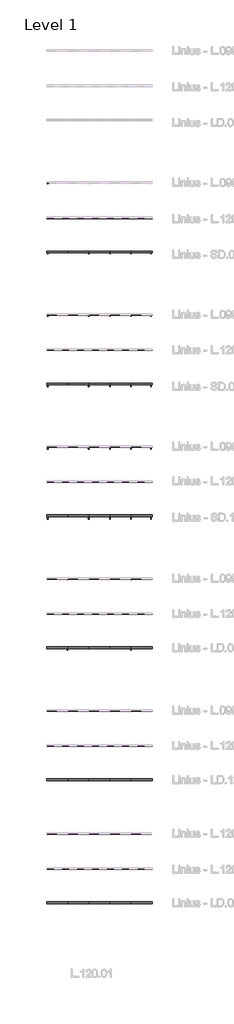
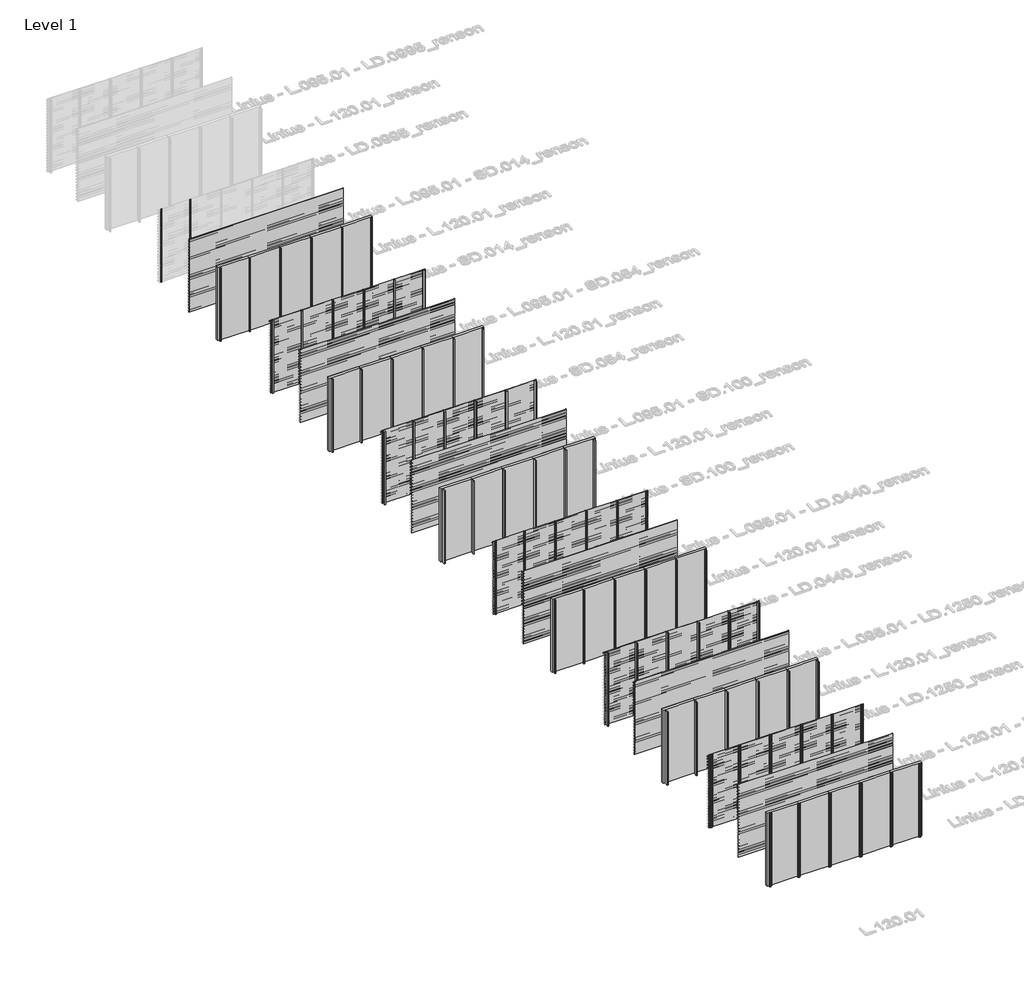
# One storey, part 1 of 46: 68 members, 61 plates.
"""IFC4 building model written with IfcOpenShell, lengths in millimetres."""

from ifc_helpers import new_model, si_unit, origin, origin_with_axes, place, context, project, spatial, polyline, outline, extrude, transform, mapped, element, save
from components import rectangular_mullion_3facce28, rectangular_mullion_6cf2c509, rectangular_mullion_8b77bd57, rectangular_mullion_2c867e25, rectangular_mullion_7803f5c4, rectangular_mullion_82152e2f, rectangular_mullion_2b84ad7e, rectangular_mullion_0fd695e7, rectangular_mullion_9b796d85, rectangular_mullion_dfb17e98, rectangular_mullion_6132f1f1, rectangular_mullion_8f153c19, rectangular_mullion_5b30f3fd, rectangular_mullion_5e0e8e0a, rectangular_mullion_d2d38772, rectangular_mullion_efb80f74, rectangular_mullion_aaa1fb1b, rectangular_mullion_ea9d012c, rectangular_mullion_af4e7430, empty_system_panel_empty_aabbdda4

model = new_model("IFC4")

# Units and contexts
model_context = context("Model", 3, world=origin())
ifc_project = project(units=[si_unit("LENGTHUNIT", "METRE", prefix="MILLI")], contexts=[model_context])

# Site, building, storey
site = spatial("IfcSite", under=ifc_project)
building = spatial("IfcBuilding", under=site)
storey = spatial("IfcBuildingStorey", under=building, Name="Level 1", Elevation=0.0)

# Members
placement = place(None, origin())
rectangular_mullion_shape = rectangular_mullion_3facce28(model_context)
element("IfcMember", 1, ObjectType="Rectangular Mullion : SD.014_renson", at=placement, inside=storey, context=model_context, shape_type="MappedRepresentation", body=[
    mapped(rectangular_mullion_shape, transform((1666.6208099, 43981.0540136, 0.0), x_axis=(-1.0, 0.0, 0.0), y_axis=(0.0, 1.0, 0.0), z_axis=(0.0, 0.0, -1.0))),
])
element("IfcMember", 2, ObjectType="Rectangular Mullion : SD.014_renson", at=placement, inside=storey, context=model_context, shape_type="MappedRepresentation", body=[
    mapped(rectangular_mullion_shape, transform((2866.6208097, 39981.0540136, 0.0), x_axis=(-1.0, 0.0, 0.0), y_axis=(0.0, 1.0, 0.0), z_axis=(0.0, 0.0, -1.0))),
])
element("IfcMember", 3, ObjectType="Rectangular Mullion : SD.014_renson", at=placement, inside=storey, context=model_context, shape_type="MappedRepresentation", body=[
    mapped(rectangular_mullion_shape, transform((1666.6208099, 39981.0540136, 0.0), x_axis=(-1.0, 0.0, 0.0), y_axis=(0.0, 1.0, 0.0), z_axis=(0.0, 0.0, -1.0))),
])
element("IfcMember", 4, ObjectType="Rectangular Mullion : SD.014_renson", at=placement, inside=storey, context=model_context, shape_type="MappedRepresentation", body=[
    mapped(rectangular_mullion_shape, transform((4066.6208096, 39981.0540136, 0.0), x_axis=(-1.0, 0.0, 0.0), y_axis=(0.0, 1.0, 0.0), z_axis=(0.0, 0.0, -1.0))),
])
element("IfcMember", 5, ObjectType="Rectangular Mullion : SD.014_renson", at=placement, inside=storey, context=model_context, shape_type="MappedRepresentation", body=[
    mapped(rectangular_mullion_shape, transform((5266.6208095, 39981.0540136, 0.0), x_axis=(-1.0, 0.0, 0.0), y_axis=(0.0, 1.0, 0.0), z_axis=(0.0, 0.0, -1.0))),
])
rectangular_mullion_2_shape = rectangular_mullion_6cf2c509(model_context)
element("IfcMember", 6, ObjectType="Rectangular Mullion : SD.054_renson", at=placement, inside=storey, context=model_context, shape_type="MappedRepresentation", body=[
    mapped(rectangular_mullion_2_shape, transform((2866.6208097, 36481.0540136, 0.0), x_axis=(-1.0, 0.0, 0.0), y_axis=(0.0, 1.0, 0.0), z_axis=(0.0, 0.0, -1.0))),
])
element("IfcMember", 7, ObjectType="Rectangular Mullion : SD.054_renson", at=placement, inside=storey, context=model_context, shape_type="MappedRepresentation", body=[
    mapped(rectangular_mullion_2_shape, transform((1666.6208099, 36481.0540136, 0.0), x_axis=(-1.0, 0.0, 0.0), y_axis=(0.0, 1.0, 0.0), z_axis=(0.0, 0.0, -1.0))),
])
element("IfcMember", 8, ObjectType="Rectangular Mullion : SD.054_renson", at=placement, inside=storey, context=model_context, shape_type="MappedRepresentation", body=[
    mapped(rectangular_mullion_2_shape, transform((2866.6208097, 32481.0540136, 0.0), x_axis=(-1.0, 0.0, 0.0), y_axis=(0.0, 1.0, 0.0), z_axis=(0.0, 0.0, -1.0))),
])
element("IfcMember", 9, ObjectType="Rectangular Mullion : SD.054_renson", at=placement, inside=storey, context=model_context, shape_type="MappedRepresentation", body=[
    mapped(rectangular_mullion_2_shape, transform((1666.6208099, 32481.0540136, 0.0), x_axis=(-1.0, 0.0, 0.0), y_axis=(0.0, 1.0, 0.0), z_axis=(0.0, 0.0, -1.0))),
])
element("IfcMember", 10, ObjectType="Rectangular Mullion : SD.054_renson", at=placement, inside=storey, context=model_context, shape_type="MappedRepresentation", body=[
    mapped(rectangular_mullion_2_shape, transform((4066.6208096, 32481.0540136, 0.0), x_axis=(-1.0, 0.0, 0.0), y_axis=(0.0, 1.0, 0.0), z_axis=(0.0, 0.0, -1.0))),
])
element("IfcMember", 11, ObjectType="Rectangular Mullion : SD.054_renson", at=placement, inside=storey, context=model_context, shape_type="MappedRepresentation", body=[
    mapped(rectangular_mullion_2_shape, transform((5266.6208095, 32481.0540136, 0.0), x_axis=(-1.0, 0.0, 0.0), y_axis=(0.0, 1.0, 0.0), z_axis=(0.0, 0.0, -1.0))),
])
element("IfcMember", 12, ObjectType="Rectangular Mullion : SD.054_renson", at=placement, inside=storey, context=model_context, shape_type="MappedRepresentation", body=[
    mapped(rectangular_mullion_2_shape, transform((4066.6208096, 36481.0540136, 0.0), x_axis=(-1.0, 0.0, 0.0), y_axis=(0.0, 1.0, 0.0), z_axis=(0.0, 0.0, -1.0))),
])
element("IfcMember", 13, ObjectType="Rectangular Mullion : SD.054_renson", at=placement, inside=storey, context=model_context, shape_type="MappedRepresentation", body=[
    mapped(rectangular_mullion_2_shape, transform((5266.6208095, 36481.0540136, 0.0), x_axis=(-1.0, 0.0, 0.0), y_axis=(0.0, 1.0, 0.0), z_axis=(0.0, 0.0, -1.0))),
])
rectangular_mullion_3_shape = rectangular_mullion_8b77bd57(model_context)
element("IfcMember", 14, ObjectType="Rectangular Mullion : SD.100_renson", at=placement, inside=storey, context=model_context, shape_type="MappedRepresentation", body=[
    mapped(rectangular_mullion_3_shape, transform((2866.6208097, 28981.0540136, 0.0), x_axis=(-1.0, 0.0, 0.0), y_axis=(0.0, 1.0, 0.0), z_axis=(0.0, 0.0, -1.0))),
])
element("IfcMember", 15, ObjectType="Rectangular Mullion : SD.100_renson", at=placement, inside=storey, context=model_context, shape_type="MappedRepresentation", body=[
    mapped(rectangular_mullion_3_shape, transform((1666.6208099, 28981.0540136, 0.0), x_axis=(-1.0, 0.0, 0.0), y_axis=(0.0, 1.0, 0.0), z_axis=(0.0, 0.0, -1.0))),
])
element("IfcMember", 16, ObjectType="Rectangular Mullion : SD.100_renson", at=placement, inside=storey, context=model_context, shape_type="MappedRepresentation", body=[
    mapped(rectangular_mullion_3_shape, transform((2866.6208097, 24981.0540136, 0.0), x_axis=(-1.0, 0.0, 0.0), y_axis=(0.0, 1.0, 0.0), z_axis=(0.0, 0.0, -1.0))),
])
element("IfcMember", 17, ObjectType="Rectangular Mullion : SD.100_renson", at=placement, inside=storey, context=model_context, shape_type="MappedRepresentation", body=[
    mapped(rectangular_mullion_3_shape, transform((1666.6208099, 24981.0540136, 0.0), x_axis=(-1.0, 0.0, 0.0), y_axis=(0.0, 1.0, 0.0), z_axis=(0.0, 0.0, -1.0))),
])
element("IfcMember", 18, ObjectType="Rectangular Mullion : SD.100_renson", at=placement, inside=storey, context=model_context, shape_type="MappedRepresentation", body=[
    mapped(rectangular_mullion_3_shape, transform((4066.6208096, 24981.0540136, 0.0), x_axis=(-1.0, 0.0, 0.0), y_axis=(0.0, 1.0, 0.0), z_axis=(0.0, 0.0, -1.0))),
])
element("IfcMember", 19, ObjectType="Rectangular Mullion : SD.100_renson", at=placement, inside=storey, context=model_context, shape_type="MappedRepresentation", body=[
    mapped(rectangular_mullion_3_shape, transform((5266.6208095, 24981.0540136, 0.0), x_axis=(-1.0, 0.0, 0.0), y_axis=(0.0, 1.0, 0.0), z_axis=(0.0, 0.0, -1.0))),
])
element("IfcMember", 20, ObjectType="Rectangular Mullion : SD.100_renson", at=placement, inside=storey, context=model_context, shape_type="MappedRepresentation", body=[
    mapped(rectangular_mullion_3_shape, transform((4066.6208096, 28981.0540136, 0.0), x_axis=(-1.0, 0.0, 0.0), y_axis=(0.0, 1.0, 0.0), z_axis=(0.0, 0.0, -1.0))),
])
element("IfcMember", 21, ObjectType="Rectangular Mullion : SD.100_renson", at=placement, inside=storey, context=model_context, shape_type="MappedRepresentation", body=[
    mapped(rectangular_mullion_3_shape, transform((5266.6208095, 28981.0540136, 0.0), x_axis=(-1.0, 0.0, 0.0), y_axis=(0.0, 1.0, 0.0), z_axis=(0.0, 0.0, -1.0))),
])
rectangular_mullion_4_shape = rectangular_mullion_2c867e25(model_context)
element("IfcMember", 22, ObjectType="Rectangular Mullion : LD.0440_renson", at=placement, inside=storey, context=model_context, shape_type="MappedRepresentation", body=[
    mapped(rectangular_mullion_4_shape, transform((2866.6208097, 21481.0540136, 0.0), x_axis=(-1.0, 0.0, 0.0), y_axis=(0.0, 1.0, 0.0), z_axis=(0.0, 0.0, -1.0))),
])
element("IfcMember", 23, ObjectType="Rectangular Mullion : LD.0440_renson", at=placement, inside=storey, context=model_context, shape_type="MappedRepresentation", body=[
    mapped(rectangular_mullion_4_shape, transform((1666.6208099, 21481.0540136, 0.0), x_axis=(-1.0, 0.0, 0.0), y_axis=(0.0, 1.0, 0.0), z_axis=(0.0, 0.0, -1.0))),
])
element("IfcMember", 24, ObjectType="Rectangular Mullion : LD.0440_renson", at=placement, inside=storey, context=model_context, shape_type="MappedRepresentation", body=[
    mapped(rectangular_mullion_4_shape, transform((2866.6208097, 17481.0540136, 0.0), x_axis=(-1.0, 0.0, 0.0), y_axis=(0.0, 1.0, 0.0), z_axis=(0.0, 0.0, -1.0))),
])
element("IfcMember", 25, ObjectType="Rectangular Mullion : LD.0440_renson", at=placement, inside=storey, context=model_context, shape_type="MappedRepresentation", body=[
    mapped(rectangular_mullion_4_shape, transform((1666.6208099, 17481.0540136, 0.0), x_axis=(-1.0, 0.0, 0.0), y_axis=(0.0, 1.0, 0.0), z_axis=(0.0, 0.0, -1.0))),
])
element("IfcMember", 26, ObjectType="Rectangular Mullion : LD.0440_renson", at=placement, inside=storey, context=model_context, shape_type="MappedRepresentation", body=[
    mapped(rectangular_mullion_4_shape, transform((4066.6208096, 17481.0540136, 0.0), x_axis=(-1.0, 0.0, 0.0), y_axis=(0.0, 1.0, 0.0), z_axis=(0.0, 0.0, -1.0))),
])
element("IfcMember", 27, ObjectType="Rectangular Mullion : LD.0440_renson", at=placement, inside=storey, context=model_context, shape_type="MappedRepresentation", body=[
    mapped(rectangular_mullion_4_shape, transform((5266.6208095, 17481.0540136, 0.0), x_axis=(-1.0, 0.0, 0.0), y_axis=(0.0, 1.0, 0.0), z_axis=(0.0, 0.0, -1.0))),
])
element("IfcMember", 28, ObjectType="Rectangular Mullion : LD.0440_renson", at=placement, inside=storey, context=model_context, shape_type="MappedRepresentation", body=[
    mapped(rectangular_mullion_4_shape, transform((4066.6208096, 21481.0540136, 0.0), x_axis=(-1.0, 0.0, 0.0), y_axis=(0.0, 1.0, 0.0), z_axis=(0.0, 0.0, -1.0))),
])
element("IfcMember", 29, ObjectType="Rectangular Mullion : LD.0440_renson", at=placement, inside=storey, context=model_context, shape_type="MappedRepresentation", body=[
    mapped(rectangular_mullion_4_shape, transform((5266.6208095, 21481.0540136, 0.0), x_axis=(-1.0, 0.0, 0.0), y_axis=(0.0, 1.0, 0.0), z_axis=(0.0, 0.0, -1.0))),
])
rectangular_mullion_5_shape = rectangular_mullion_7803f5c4(model_context)
element("IfcMember", 30, ObjectType="Rectangular Mullion : LD.1250_renson", at=placement, inside=storey, context=model_context, shape_type="MappedRepresentation", body=[
    mapped(rectangular_mullion_5_shape, transform((2866.6208097, 13981.0540136, 0.0), x_axis=(-1.0, 0.0, 0.0), y_axis=(0.0, 1.0, 0.0), z_axis=(0.0, 0.0, -1.0))),
])
element("IfcMember", 31, ObjectType="Rectangular Mullion : LD.1250_renson", at=placement, inside=storey, context=model_context, shape_type="MappedRepresentation", body=[
    mapped(rectangular_mullion_5_shape, transform((1666.6208099, 13981.0540136, 0.0), x_axis=(-1.0, 0.0, 0.0), y_axis=(0.0, 1.0, 0.0), z_axis=(0.0, 0.0, -1.0))),
])
element("IfcMember", 32, ObjectType="Rectangular Mullion : LD.1250_renson", at=placement, inside=storey, context=model_context, shape_type="MappedRepresentation", body=[
    mapped(rectangular_mullion_5_shape, transform((2866.6208097, 9981.0540136, 0.0), x_axis=(-1.0, 0.0, 0.0), y_axis=(0.0, 1.0, 0.0), z_axis=(0.0, 0.0, -1.0))),
])
element("IfcMember", 33, ObjectType="Rectangular Mullion : LD.1250_renson", at=placement, inside=storey, context=model_context, shape_type="MappedRepresentation", body=[
    mapped(rectangular_mullion_5_shape, transform((1666.6208099, 9981.0540136, 0.0), x_axis=(-1.0, 0.0, 0.0), y_axis=(0.0, 1.0, 0.0), z_axis=(0.0, 0.0, -1.0))),
])
element("IfcMember", 34, ObjectType="Rectangular Mullion : LD.1250_renson", at=placement, inside=storey, context=model_context, shape_type="MappedRepresentation", body=[
    mapped(rectangular_mullion_5_shape, transform((4066.6208096, 9981.0540136, 0.0), x_axis=(-1.0, 0.0, 0.0), y_axis=(0.0, 1.0, 0.0), z_axis=(0.0, 0.0, -1.0))),
])
element("IfcMember", 35, ObjectType="Rectangular Mullion : LD.1250_renson", at=placement, inside=storey, context=model_context, shape_type="MappedRepresentation", body=[
    mapped(rectangular_mullion_5_shape, transform((5266.6208095, 9981.0540136, 0.0), x_axis=(-1.0, 0.0, 0.0), y_axis=(0.0, 1.0, 0.0), z_axis=(0.0, 0.0, -1.0))),
])
element("IfcMember", 36, ObjectType="Rectangular Mullion : LD.1250_renson", at=placement, inside=storey, context=model_context, shape_type="MappedRepresentation", body=[
    mapped(rectangular_mullion_5_shape, transform((4066.6208096, 13981.0540136, 0.0), x_axis=(-1.0, 0.0, 0.0), y_axis=(0.0, 1.0, 0.0), z_axis=(0.0, 0.0, -1.0))),
])
element("IfcMember", 37, ObjectType="Rectangular Mullion : LD.1250_renson", at=placement, inside=storey, context=model_context, shape_type="MappedRepresentation", body=[
    mapped(rectangular_mullion_5_shape, transform((5266.6208095, 13981.0540136, 0.0), x_axis=(-1.0, 0.0, 0.0), y_axis=(0.0, 1.0, 0.0), z_axis=(0.0, 0.0, -1.0))),
])
rectangular_mullion_6_shape = rectangular_mullion_82152e2f(model_context)
element("IfcMember", 38, ObjectType="Rectangular Mullion : LD.0240_renson", at=placement, inside=storey, context=model_context, shape_type="MappedRepresentation", body=[
    mapped(rectangular_mullion_6_shape, transform((2866.6208097, 6985.0270068, 0.0), x_axis=(-1.0, 0.0, 0.0), y_axis=(0.0, 1.0, 0.0), z_axis=(0.0, 0.0, -1.0))),
])
element("IfcMember", 39, ObjectType="Rectangular Mullion : LD.0240_renson", at=placement, inside=storey, context=model_context, shape_type="MappedRepresentation", body=[
    mapped(rectangular_mullion_6_shape, transform((1666.6208099, 6985.0270068, 0.0), x_axis=(-1.0, 0.0, 0.0), y_axis=(0.0, 1.0, 0.0), z_axis=(0.0, 0.0, -1.0))),
])
element("IfcMember", 40, ObjectType="Rectangular Mullion : LD.0240_renson", at=placement, inside=storey, context=model_context, shape_type="MappedRepresentation", body=[
    mapped(rectangular_mullion_6_shape, transform((2866.6208097, 2985.0270068, 0.0), x_axis=(-1.0, 0.0, 0.0), y_axis=(0.0, 1.0, 0.0), z_axis=(0.0, 0.0, -1.0))),
])
element("IfcMember", 41, ObjectType="Rectangular Mullion : LD.0240_renson", at=placement, inside=storey, context=model_context, shape_type="MappedRepresentation", body=[
    mapped(rectangular_mullion_6_shape, transform((1666.6208099, 2985.0270068, 0.0), x_axis=(-1.0, 0.0, 0.0), y_axis=(0.0, 1.0, 0.0), z_axis=(0.0, 0.0, -1.0))),
])
element("IfcMember", 42, ObjectType="Rectangular Mullion : LD.0240_renson", at=placement, inside=storey, context=model_context, shape_type="MappedRepresentation", body=[
    mapped(rectangular_mullion_6_shape, transform((4066.6208096, 2985.0270068, 0.0), x_axis=(-1.0, 0.0, 0.0), y_axis=(0.0, 1.0, 0.0), z_axis=(0.0, 0.0, -1.0))),
])
element("IfcMember", 43, ObjectType="Rectangular Mullion : LD.0240_renson", at=placement, inside=storey, context=model_context, shape_type="MappedRepresentation", body=[
    mapped(rectangular_mullion_6_shape, transform((5266.6208095, 2985.0270068, 0.0), x_axis=(-1.0, 0.0, 0.0), y_axis=(0.0, 1.0, 0.0), z_axis=(0.0, 0.0, -1.0))),
])
element("IfcMember", 44, ObjectType="Rectangular Mullion : LD.0240_renson", at=placement, inside=storey, context=model_context, shape_type="MappedRepresentation", body=[
    mapped(rectangular_mullion_6_shape, transform((4066.6208096, 6985.0270068, 0.0), x_axis=(-1.0, 0.0, 0.0), y_axis=(0.0, 1.0, 0.0), z_axis=(0.0, 0.0, -1.0))),
])
element("IfcMember", 45, ObjectType="Rectangular Mullion : LD.0240_renson", at=placement, inside=storey, context=model_context, shape_type="MappedRepresentation", body=[
    mapped(rectangular_mullion_6_shape, transform((5266.6208095, 6985.0270068, 0.0), x_axis=(-1.0, 0.0, 0.0), y_axis=(0.0, 1.0, 0.0), z_axis=(0.0, 0.0, -1.0))),
])
rectangular_mullion_7_shape = rectangular_mullion_2b84ad7e(model_context)
element("IfcMember", 46, ObjectType="Rectangular Mullion : SD.014 - left_renson", at=placement, inside=storey, context=model_context, shape_type="MappedRepresentation", body=[
    mapped(rectangular_mullion_7_shape, transform((466.6208097, 43981.0540136, 0.0), x_axis=(-1.0, 0.0, 0.0), y_axis=(0.0, 1.0, 0.0), z_axis=(0.0, 0.0, -1.0))),
])
element("IfcMember", 47, ObjectType="Rectangular Mullion : SD.014 - left_renson", at=placement, inside=storey, context=model_context, shape_type="MappedRepresentation", body=[
    mapped(rectangular_mullion_7_shape, transform((466.6208097, 39981.0540136, 0.0), x_axis=(-1.0, 0.0, 0.0), y_axis=(0.0, 1.0, 0.0), z_axis=(0.0, 0.0, -1.0))),
])
rectangular_mullion_8_shape = rectangular_mullion_0fd695e7(model_context)
element("IfcMember", 48, ObjectType="Rectangular Mullion : SD.014 - right_renson", at=placement, inside=storey, context=model_context, shape_type="MappedRepresentation", body=[
    mapped(rectangular_mullion_8_shape, transform((6466.6208097, 39981.0540136, 3000.0), x_axis=(1.0, 0.0, 0.0), y_axis=(0.0, 1.0, 0.0), z_axis=(0.0, 0.0, 1.0))),
])
rectangular_mullion_9_shape = rectangular_mullion_9b796d85(model_context)
element("IfcMember", 49, ObjectType="Rectangular Mullion : SD.054 - left_renson", at=placement, inside=storey, context=model_context, shape_type="MappedRepresentation", body=[
    mapped(rectangular_mullion_9_shape, transform((466.6208097, 36481.0540136, 0.0), x_axis=(-1.0, 0.0, 0.0), y_axis=(0.0, 1.0, 0.0), z_axis=(0.0, 0.0, -1.0))),
])
element("IfcMember", 50, ObjectType="Rectangular Mullion : SD.054 - left_renson", at=placement, inside=storey, context=model_context, shape_type="MappedRepresentation", body=[
    mapped(rectangular_mullion_9_shape, transform((466.6208097, 32481.0540136, 0.0), x_axis=(-1.0, 0.0, 0.0), y_axis=(0.0, 1.0, 0.0), z_axis=(0.0, 0.0, -1.0))),
])
rectangular_mullion_10_shape = rectangular_mullion_dfb17e98(model_context)
element("IfcMember", 51, ObjectType="Rectangular Mullion : SD.054 - right_renson", at=placement, inside=storey, context=model_context, shape_type="MappedRepresentation", body=[
    mapped(rectangular_mullion_10_shape, transform((6466.6208097, 36481.0540136, 3000.0), x_axis=(1.0, 0.0, 0.0), y_axis=(0.0, 1.0, 0.0), z_axis=(0.0, 0.0, 1.0))),
])
element("IfcMember", 52, ObjectType="Rectangular Mullion : SD.054 - right_renson", at=placement, inside=storey, context=model_context, shape_type="MappedRepresentation", body=[
    mapped(rectangular_mullion_10_shape, transform((6466.6208097, 32481.0540136, 3000.0), x_axis=(1.0, 0.0, 0.0), y_axis=(0.0, 1.0, 0.0), z_axis=(0.0, 0.0, 1.0))),
])
rectangular_mullion_11_shape = rectangular_mullion_6132f1f1(model_context)
element("IfcMember", 53, ObjectType="Rectangular Mullion : SD.100 - left_renson", at=placement, inside=storey, context=model_context, shape_type="MappedRepresentation", body=[
    mapped(rectangular_mullion_11_shape, transform((466.6208097, 28981.0540136, 0.0), x_axis=(-1.0, 0.0, 0.0), y_axis=(0.0, 1.0, 0.0), z_axis=(0.0, 0.0, -1.0))),
])
element("IfcMember", 54, ObjectType="Rectangular Mullion : SD.100 - left_renson", at=placement, inside=storey, context=model_context, shape_type="MappedRepresentation", body=[
    mapped(rectangular_mullion_11_shape, transform((466.6208097, 24981.0540136, 0.0), x_axis=(-1.0, 0.0, 0.0), y_axis=(0.0, 1.0, 0.0), z_axis=(0.0, 0.0, -1.0))),
])
rectangular_mullion_12_shape = rectangular_mullion_8f153c19(model_context)
element("IfcMember", 55, ObjectType="Rectangular Mullion : SD.100 - right_renson", at=placement, inside=storey, context=model_context, shape_type="MappedRepresentation", body=[
    mapped(rectangular_mullion_12_shape, transform((6466.6208097, 28981.0540136, 3000.0), x_axis=(1.0, 0.0, 0.0), y_axis=(0.0, 1.0, 0.0), z_axis=(0.0, 0.0, 1.0))),
])
element("IfcMember", 56, ObjectType="Rectangular Mullion : SD.100 - right_renson", at=placement, inside=storey, context=model_context, shape_type="MappedRepresentation", body=[
    mapped(rectangular_mullion_12_shape, transform((6466.6208097, 24981.0540136, 3000.0), x_axis=(1.0, 0.0, 0.0), y_axis=(0.0, 1.0, 0.0), z_axis=(0.0, 0.0, 1.0))),
])
rectangular_mullion_13_shape = rectangular_mullion_5b30f3fd(model_context)
element("IfcMember", 57, ObjectType="Rectangular Mullion : LD.0440 - left_renson", at=placement, inside=storey, context=model_context, shape_type="MappedRepresentation", body=[
    mapped(rectangular_mullion_13_shape, transform((466.6208097, 21481.0540136, 0.0), x_axis=(-1.0, 0.0, 0.0), y_axis=(0.0, 1.0, 0.0), z_axis=(0.0, 0.0, -1.0))),
])
element("IfcMember", 58, ObjectType="Rectangular Mullion : LD.0440 - left_renson", at=placement, inside=storey, context=model_context, shape_type="MappedRepresentation", body=[
    mapped(rectangular_mullion_13_shape, transform((466.6208097, 17481.0540136, 0.0), x_axis=(-1.0, 0.0, 0.0), y_axis=(0.0, 1.0, 0.0), z_axis=(0.0, 0.0, -1.0))),
])
rectangular_mullion_14_shape = rectangular_mullion_5e0e8e0a(model_context)
element("IfcMember", 59, ObjectType="Rectangular Mullion : LD.0440 - right_renson", at=placement, inside=storey, context=model_context, shape_type="MappedRepresentation", body=[
    mapped(rectangular_mullion_14_shape, transform((6466.6208097, 21481.0540136, 3000.0), x_axis=(1.0, 0.0, 0.0), y_axis=(0.0, 1.0, 0.0), z_axis=(0.0, 0.0, 1.0))),
])
element("IfcMember", 60, ObjectType="Rectangular Mullion : LD.0440 - right_renson", at=placement, inside=storey, context=model_context, shape_type="MappedRepresentation", body=[
    mapped(rectangular_mullion_14_shape, transform((6466.6208097, 17481.0540136, 3000.0), x_axis=(1.0, 0.0, 0.0), y_axis=(0.0, 1.0, 0.0), z_axis=(0.0, 0.0, 1.0))),
])
rectangular_mullion_15_shape = rectangular_mullion_d2d38772(model_context)
element("IfcMember", 61, ObjectType="Rectangular Mullion : LD.1250 - left_renson", at=placement, inside=storey, context=model_context, shape_type="MappedRepresentation", body=[
    mapped(rectangular_mullion_15_shape, transform((466.6208097, 13981.0540136, 0.0), x_axis=(-1.0, 0.0, 0.0), y_axis=(0.0, 1.0, 0.0), z_axis=(0.0, 0.0, -1.0))),
])
element("IfcMember", 62, ObjectType="Rectangular Mullion : LD.1250 - left_renson", at=placement, inside=storey, context=model_context, shape_type="MappedRepresentation", body=[
    mapped(rectangular_mullion_15_shape, transform((466.6208097, 9981.0540136, 0.0), x_axis=(-1.0, 0.0, 0.0), y_axis=(0.0, 1.0, 0.0), z_axis=(0.0, 0.0, -1.0))),
])
rectangular_mullion_16_shape = rectangular_mullion_efb80f74(model_context)
element("IfcMember", 63, ObjectType="Rectangular Mullion : LD.1250 - right_renson", at=placement, inside=storey, context=model_context, shape_type="MappedRepresentation", body=[
    mapped(rectangular_mullion_16_shape, transform((6466.6208097, 13981.0540136, 3000.0), x_axis=(1.0, 0.0, 0.0), y_axis=(0.0, 1.0, 0.0), z_axis=(0.0, 0.0, 1.0))),
])
element("IfcMember", 64, ObjectType="Rectangular Mullion : LD.1250 - right_renson", at=placement, inside=storey, context=model_context, shape_type="MappedRepresentation", body=[
    mapped(rectangular_mullion_16_shape, transform((6466.6208097, 9981.0540136, 3000.0), x_axis=(1.0, 0.0, 0.0), y_axis=(0.0, 1.0, 0.0), z_axis=(0.0, 0.0, 1.0))),
])
rectangular_mullion_17_shape = rectangular_mullion_aaa1fb1b(model_context)
element("IfcMember", 65, ObjectType="Rectangular Mullion : LD.0240 - left_renson", at=placement, inside=storey, context=model_context, shape_type="MappedRepresentation", body=[
    mapped(rectangular_mullion_17_shape, transform((466.6208097, 6985.0270068, 0.0), x_axis=(-1.0, 0.0, 0.0), y_axis=(0.0, 1.0, 0.0), z_axis=(0.0, 0.0, -1.0))),
])
element("IfcMember", 66, ObjectType="Rectangular Mullion : LD.0240 - left_renson", at=placement, inside=storey, context=model_context, shape_type="MappedRepresentation", body=[
    mapped(rectangular_mullion_17_shape, transform((466.6208097, 2985.0270068, 0.0), x_axis=(-1.0, 0.0, 0.0), y_axis=(0.0, 1.0, 0.0), z_axis=(0.0, 0.0, -1.0))),
])
rectangular_mullion_18_shape = rectangular_mullion_ea9d012c(model_context)
element("IfcMember", 67, ObjectType="Rectangular Mullion : LD.0240 - right_renson", at=placement, inside=storey, context=model_context, shape_type="MappedRepresentation", body=[
    mapped(rectangular_mullion_18_shape, transform((6466.6208097, 2985.0270068, 3000.0), x_axis=(1.0, 0.0, 0.0), y_axis=(0.0, 1.0, 0.0), z_axis=(0.0, 0.0, 1.0))),
])
rectangular_mullion_19_shape = rectangular_mullion_af4e7430(model_context)
element("IfcMember", 68, ObjectType="Rectangular Mullion : LD.0240_renson", at=placement, inside=storey, context=model_context, shape_type="MappedRepresentation", body=[
    mapped(rectangular_mullion_19_shape, transform((6466.6208097, 6985.0270068, 3000.0), x_axis=(1.0, 0.0, 0.0), y_axis=(0.0, 1.0, 0.0), z_axis=(0.0, 0.0, 1.0))),
])

# Plates
element("IfcPlate", 69, ObjectType="Linius - L.120.01_renson", at=placement, inside=storey, context=model_context, shape_type="SweptSolid", body=[
    extrude(outline(polyline([(466.6208097, 41982.0540136), (6466.6208097, 41982.0540136), (6466.6208097, 41980.0540136), (466.6208097, 41980.0540136), (466.6208097, 41982.0540136)])), origin_with_axes(), (0.0, 0.0, 1.0), 3000.0),
])
element("IfcPlate", 70, ObjectType="Linius - L.120.01_renson", at=placement, inside=storey, context=model_context, shape_type="SweptSolid", body=[
    extrude(outline(polyline([(466.6208097, 36482.0540136), (1666.6208099, 36482.0540136), (1666.6208099, 36480.0540136), (466.6208097, 36480.0540136), (466.6208097, 36482.0540136)])), origin_with_axes(), (0.0, 0.0, 1.0), 3000.0),
])
element("IfcPlate", 71, ObjectType="Linius - L.120.01_renson", at=placement, inside=storey, context=model_context, shape_type="SweptSolid", body=[
    extrude(outline(polyline([(1666.6208099, 36482.0540136), (2866.6208097, 36482.0540136), (2866.6208097, 36480.0540136), (1666.6208099, 36480.0540136), (1666.6208099, 36482.0540136)])), origin_with_axes(), (0.0, 0.0, 1.0), 3000.0),
])
element("IfcPlate", 72, ObjectType="Linius - L.120.01_renson", at=placement, inside=storey, context=model_context, shape_type="SweptSolid", body=[
    extrude(outline(polyline([(5266.6208095, 36482.0540136), (6466.6208097, 36482.0540136), (6466.6208097, 36480.0540136), (5266.6208095, 36480.0540136), (5266.6208095, 36482.0540136)])), origin_with_axes(), (0.0, 0.0, 1.0), 3000.0),
])
element("IfcPlate", 73, ObjectType="Linius - L.120.01_renson", at=placement, inside=storey, context=model_context, shape_type="SweptSolid", body=[
    extrude(outline(polyline([(466.6208097, 34482.0540136), (6466.6208097, 34482.0540136), (6466.6208097, 34480.0540136), (466.6208097, 34480.0540136), (466.6208097, 34482.0540136)])), origin_with_axes(), (0.0, 0.0, 1.0), 3000.0),
])
element("IfcPlate", 74, ObjectType="Linius - L.120.01_renson", at=placement, inside=storey, context=model_context, shape_type="SweptSolid", body=[
    extrude(outline(polyline([(466.6208097, 28982.0540136), (1666.6208099, 28982.0540136), (1666.6208099, 28980.0540136), (466.6208097, 28980.0540136), (466.6208097, 28982.0540136)])), origin_with_axes(), (0.0, 0.0, 1.0), 3000.0),
])
element("IfcPlate", 75, ObjectType="Linius - L.120.01_renson", at=placement, inside=storey, context=model_context, shape_type="SweptSolid", body=[
    extrude(outline(polyline([(1666.6208099, 28982.0540136), (2866.6208097, 28982.0540136), (2866.6208097, 28980.0540136), (1666.6208099, 28980.0540136), (1666.6208099, 28982.0540136)])), origin_with_axes(), (0.0, 0.0, 1.0), 3000.0),
])
element("IfcPlate", 76, ObjectType="Linius - L.120.01_renson", at=placement, inside=storey, context=model_context, shape_type="SweptSolid", body=[
    extrude(outline(polyline([(5266.6208095, 28982.0540136), (6466.6208097, 28982.0540136), (6466.6208097, 28980.0540136), (5266.6208095, 28980.0540136), (5266.6208095, 28982.0540136)])), origin_with_axes(), (0.0, 0.0, 1.0), 3000.0),
])
element("IfcPlate", 77, ObjectType="Linius - L.120.01_renson", at=placement, inside=storey, context=model_context, shape_type="SweptSolid", body=[
    extrude(outline(polyline([(466.6208097, 26982.0540136), (6466.6208097, 26982.0540136), (6466.6208097, 26980.0540136), (466.6208097, 26980.0540136), (466.6208097, 26982.0540136)])), origin_with_axes(), (0.0, 0.0, 1.0), 3000.0),
])
element("IfcPlate", 78, ObjectType="Linius - L.120.01_renson", at=placement, inside=storey, context=model_context, shape_type="SweptSolid", body=[
    extrude(outline(polyline([(466.6208097, 21482.0540136), (1666.6208099, 21482.0540136), (1666.6208099, 21480.0540136), (466.6208097, 21480.0540136), (466.6208097, 21482.0540136)])), origin_with_axes(), (0.0, 0.0, 1.0), 3000.0),
])
element("IfcPlate", 79, ObjectType="Linius - L.120.01_renson", at=placement, inside=storey, context=model_context, shape_type="SweptSolid", body=[
    extrude(outline(polyline([(1666.6208099, 21482.0540136), (2866.6208097, 21482.0540136), (2866.6208097, 21480.0540136), (1666.6208099, 21480.0540136), (1666.6208099, 21482.0540136)])), origin_with_axes(), (0.0, 0.0, 1.0), 3000.0),
])
element("IfcPlate", 80, ObjectType="Linius - L.120.01_renson", at=placement, inside=storey, context=model_context, shape_type="SweptSolid", body=[
    extrude(outline(polyline([(5266.6208095, 21482.0540136), (6466.6208097, 21482.0540136), (6466.6208097, 21480.0540136), (5266.6208095, 21480.0540136), (5266.6208095, 21482.0540136)])), origin_with_axes(), (0.0, 0.0, 1.0), 3000.0),
])
element("IfcPlate", 81, ObjectType="Linius - L.120.01_renson", at=placement, inside=storey, context=model_context, shape_type="SweptSolid", body=[
    extrude(outline(polyline([(466.6208097, 19482.0540136), (6466.6208097, 19482.0540136), (6466.6208097, 19480.0540136), (466.6208097, 19480.0540136), (466.6208097, 19482.0540136)])), origin_with_axes(), (0.0, 0.0, 1.0), 3000.0),
])
element("IfcPlate", 82, ObjectType="Linius - L.120.01_renson", at=placement, inside=storey, context=model_context, shape_type="SweptSolid", body=[
    extrude(outline(polyline([(466.6208097, 13982.0540136), (1666.6208099, 13982.0540136), (1666.6208099, 13980.0540136), (466.6208097, 13980.0540136), (466.6208097, 13982.0540136)])), origin_with_axes(), (0.0, 0.0, 1.0), 3000.0),
])
element("IfcPlate", 83, ObjectType="Linius - L.120.01_renson", at=placement, inside=storey, context=model_context, shape_type="SweptSolid", body=[
    extrude(outline(polyline([(1666.6208099, 13982.0540136), (2866.6208097, 13982.0540136), (2866.6208097, 13980.0540136), (1666.6208099, 13980.0540136), (1666.6208099, 13982.0540136)])), origin_with_axes(), (0.0, 0.0, 1.0), 3000.0),
])
element("IfcPlate", 84, ObjectType="Linius - L.120.01_renson", at=placement, inside=storey, context=model_context, shape_type="SweptSolid", body=[
    extrude(outline(polyline([(5266.6208095, 13982.0540136), (6466.6208097, 13982.0540136), (6466.6208097, 13980.0540136), (5266.6208095, 13980.0540136), (5266.6208095, 13982.0540136)])), origin_with_axes(), (0.0, 0.0, 1.0), 3000.0),
])
element("IfcPlate", 85, ObjectType="Linius - L.120.01_renson", at=placement, inside=storey, context=model_context, shape_type="SweptSolid", body=[
    extrude(outline(polyline([(466.6208097, 11982.0540136), (6466.6208097, 11982.0540136), (6466.6208097, 11980.0540136), (466.6208097, 11980.0540136), (466.6208097, 11982.0540136)])), origin_with_axes(), (0.0, 0.0, 1.0), 3000.0),
])
element("IfcPlate", 86, ObjectType="Linius - L.120.01_renson", at=placement, inside=storey, context=model_context, shape_type="SweptSolid", body=[
    extrude(outline(polyline([(466.6208097, 6986.0270068), (1666.6208099, 6986.0270068), (1666.6208099, 6984.0270068), (466.6208097, 6984.0270068), (466.6208097, 6986.0270068)])), origin_with_axes(), (0.0, 0.0, 1.0), 3000.0),
])
element("IfcPlate", 87, ObjectType="Linius - L.120.01_renson", at=placement, inside=storey, context=model_context, shape_type="SweptSolid", body=[
    extrude(outline(polyline([(1666.6208099, 6986.0270068), (2866.6208097, 6986.0270068), (2866.6208097, 6984.0270068), (1666.6208099, 6984.0270068), (1666.6208099, 6986.0270068)])), origin_with_axes(), (0.0, 0.0, 1.0), 3000.0),
])
element("IfcPlate", 88, ObjectType="Linius - L.120.01_renson", at=placement, inside=storey, context=model_context, shape_type="SweptSolid", body=[
    extrude(outline(polyline([(5266.6208095, 6986.0270068), (6419.6208097, 6986.0270068), (6419.6208097, 6984.0270068), (5266.6208095, 6984.0270068), (5266.6208095, 6986.0270068)])), origin_with_axes(), (0.0, 0.0, 1.0), 3000.0),
])
element("IfcPlate", 89, ObjectType="Linius - L.120.01_renson", at=placement, inside=storey, context=model_context, shape_type="SweptSolid", body=[
    extrude(outline(polyline([(466.6208097, 4986.0270068), (6466.6208097, 4986.0270068), (6466.6208097, 4984.0270068), (466.6208097, 4984.0270068), (466.6208097, 4986.0270068)])), origin_with_axes(), (0.0, 0.0, 1.0), 3000.0),
])
element("IfcPlate", 90, ObjectType="Linius - L.120.01_renson", at=placement, inside=storey, context=model_context, shape_type="SweptSolid", body=[
    extrude(outline(polyline([(2866.6208097, 6986.0270068), (4066.6208096, 6986.0270068), (4066.6208096, 6984.0270068), (2866.6208097, 6984.0270068), (2866.6208097, 6986.0270068)])), origin_with_axes(), (0.0, 0.0, 1.0), 3000.0),
])
element("IfcPlate", 91, ObjectType="Linius - L.120.01_renson", at=placement, inside=storey, context=model_context, shape_type="SweptSolid", body=[
    extrude(outline(polyline([(4066.6208096, 6986.0270068), (5266.6208095, 6986.0270068), (5266.6208095, 6984.0270068), (4066.6208096, 6984.0270068), (4066.6208096, 6986.0270068)])), origin_with_axes(), (0.0, 0.0, 1.0), 3000.0),
])
element("IfcPlate", 92, ObjectType="Linius - L.120.01_renson", at=placement, inside=storey, context=model_context, shape_type="SweptSolid", body=[
    extrude(outline(polyline([(2866.6208097, 21482.0540136), (4066.6208096, 21482.0540136), (4066.6208096, 21480.0540136), (2866.6208097, 21480.0540136), (2866.6208097, 21482.0540136)])), origin_with_axes(), (0.0, 0.0, 1.0), 3000.0),
])
element("IfcPlate", 93, ObjectType="Linius - L.120.01_renson", at=placement, inside=storey, context=model_context, shape_type="SweptSolid", body=[
    extrude(outline(polyline([(4066.6208096, 21482.0540136), (5266.6208095, 21482.0540136), (5266.6208095, 21480.0540136), (4066.6208096, 21480.0540136), (4066.6208096, 21482.0540136)])), origin_with_axes(), (0.0, 0.0, 1.0), 3000.0),
])
element("IfcPlate", 94, ObjectType="Linius - L.120.01_renson", at=placement, inside=storey, context=model_context, shape_type="SweptSolid", body=[
    extrude(outline(polyline([(2866.6208097, 13982.0540136), (4066.6208096, 13982.0540136), (4066.6208096, 13980.0540136), (2866.6208097, 13980.0540136), (2866.6208097, 13982.0540136)])), origin_with_axes(), (0.0, 0.0, 1.0), 3000.0),
])
element("IfcPlate", 95, ObjectType="Linius - L.120.01_renson", at=placement, inside=storey, context=model_context, shape_type="SweptSolid", body=[
    extrude(outline(polyline([(4066.6208096, 13982.0540136), (5266.6208095, 13982.0540136), (5266.6208095, 13980.0540136), (4066.6208096, 13980.0540136), (4066.6208096, 13982.0540136)])), origin_with_axes(), (0.0, 0.0, 1.0), 3000.0),
])
element("IfcPlate", 96, ObjectType="Linius - L.120.01_renson", at=placement, inside=storey, context=model_context, shape_type="SweptSolid", body=[
    extrude(outline(polyline([(2866.6208097, 36482.0540136), (4066.6208096, 36482.0540136), (4066.6208096, 36480.0540136), (2866.6208097, 36480.0540136), (2866.6208097, 36482.0540136)])), origin_with_axes(), (0.0, 0.0, 1.0), 3000.0),
])
element("IfcPlate", 97, ObjectType="Linius - L.120.01_renson", at=placement, inside=storey, context=model_context, shape_type="SweptSolid", body=[
    extrude(outline(polyline([(4066.6208096, 36482.0540136), (5266.6208095, 36482.0540136), (5266.6208095, 36480.0540136), (4066.6208096, 36480.0540136), (4066.6208096, 36482.0540136)])), origin_with_axes(), (0.0, 0.0, 1.0), 3000.0),
])
element("IfcPlate", 98, ObjectType="Linius - L.120.01_renson", at=placement, inside=storey, context=model_context, shape_type="SweptSolid", body=[
    extrude(outline(polyline([(2866.6208097, 28982.0540136), (4066.6208096, 28982.0540136), (4066.6208096, 28980.0540136), (2866.6208097, 28980.0540136), (2866.6208097, 28982.0540136)])), origin_with_axes(), (0.0, 0.0, 1.0), 3000.0),
])
element("IfcPlate", 99, ObjectType="Linius - L.120.01_renson", at=placement, inside=storey, context=model_context, shape_type="SweptSolid", body=[
    extrude(outline(polyline([(4066.6208096, 28982.0540136), (5266.6208095, 28982.0540136), (5266.6208095, 28980.0540136), (4066.6208096, 28980.0540136), (4066.6208096, 28982.0540136)])), origin_with_axes(), (0.0, 0.0, 1.0), 3000.0),
])
empty_system_panel_empty_shape = empty_system_panel_empty_aabbdda4(model_context)
element("IfcPlate", 100, ObjectType="Empty System Panel : Empty", at=placement, inside=storey, context=model_context, shape_type="MappedRepresentation", body=[
    mapped(empty_system_panel_empty_shape, transform((5866.6208096, 39981.0540136, 0.0), x_axis=(-1.0, 0.0, 0.0), y_axis=(0.0, -1.0, 0.0), z_axis=(0.0, 0.0, 1.0))),
])
element("IfcPlate", 101, ObjectType="Empty System Panel : Empty", at=placement, inside=storey, context=model_context, shape_type="MappedRepresentation", body=[
    mapped(empty_system_panel_empty_shape, transform((5866.6208096, 32481.0540136, 0.0), x_axis=(-1.0, 0.0, 0.0), y_axis=(0.0, -1.0, 0.0), z_axis=(0.0, 0.0, 1.0))),
])
element("IfcPlate", 102, ObjectType="Empty System Panel : Empty", at=placement, inside=storey, context=model_context, shape_type="MappedRepresentation", body=[
    mapped(empty_system_panel_empty_shape, transform((5866.6208096, 24981.0540136, 0.0), x_axis=(-1.0, 0.0, 0.0), y_axis=(0.0, -1.0, 0.0), z_axis=(0.0, 0.0, 1.0))),
])
element("IfcPlate", 103, ObjectType="Empty System Panel : Empty", at=placement, inside=storey, context=model_context, shape_type="MappedRepresentation", body=[
    mapped(empty_system_panel_empty_shape, transform((5866.6208096, 17481.0540136, 0.0), x_axis=(-1.0, 0.0, 0.0), y_axis=(0.0, -1.0, 0.0), z_axis=(0.0, 0.0, 1.0))),
])
element("IfcPlate", 104, ObjectType="Empty System Panel : Empty", at=placement, inside=storey, context=model_context, shape_type="MappedRepresentation", body=[
    mapped(empty_system_panel_empty_shape, transform((5866.6208096, 9981.0540136, 0.0), x_axis=(-1.0, 0.0, 0.0), y_axis=(0.0, -1.0, 0.0), z_axis=(0.0, 0.0, 1.0))),
])
element("IfcPlate", 105, ObjectType="Empty System Panel : Empty", at=placement, inside=storey, context=model_context, shape_type="MappedRepresentation", body=[
    mapped(empty_system_panel_empty_shape, transform((5866.6208096, 2985.0270068, 0.0), x_axis=(-1.0, 0.0, 0.0), y_axis=(0.0, -1.0, 0.0), z_axis=(0.0, 0.0, 1.0))),
])
element("IfcPlate", 106, ObjectType="Empty System Panel : Empty", at=placement, inside=storey, context=model_context, shape_type="MappedRepresentation", body=[
    mapped(empty_system_panel_empty_shape, transform((2266.6208098, 39981.0540136, 0.0), x_axis=(-1.0, 0.0, 0.0), y_axis=(0.0, -1.0, 0.0), z_axis=(0.0, 0.0, 1.0))),
])
element("IfcPlate", 107, ObjectType="Empty System Panel : Empty", at=placement, inside=storey, context=model_context, shape_type="MappedRepresentation", body=[
    mapped(empty_system_panel_empty_shape, transform((1066.6208098, 39981.0540136, 0.0), x_axis=(-1.0, 0.0, 0.0), y_axis=(0.0, -1.0, 0.0), z_axis=(0.0, 0.0, 1.0))),
])
element("IfcPlate", 108, ObjectType="Empty System Panel : Empty", at=placement, inside=storey, context=model_context, shape_type="MappedRepresentation", body=[
    mapped(empty_system_panel_empty_shape, transform((2266.6208098, 32481.0540136, 0.0), x_axis=(-1.0, 0.0, 0.0), y_axis=(0.0, -1.0, 0.0), z_axis=(0.0, 0.0, 1.0))),
])
element("IfcPlate", 109, ObjectType="Empty System Panel : Empty", at=placement, inside=storey, context=model_context, shape_type="MappedRepresentation", body=[
    mapped(empty_system_panel_empty_shape, transform((1066.6208098, 32481.0540136, 0.0), x_axis=(-1.0, 0.0, 0.0), y_axis=(0.0, -1.0, 0.0), z_axis=(0.0, 0.0, 1.0))),
])
element("IfcPlate", 110, ObjectType="Empty System Panel : Empty", at=placement, inside=storey, context=model_context, shape_type="MappedRepresentation", body=[
    mapped(empty_system_panel_empty_shape, transform((2266.6208098, 24981.0540136, 0.0), x_axis=(-1.0, 0.0, 0.0), y_axis=(0.0, -1.0, 0.0), z_axis=(0.0, 0.0, 1.0))),
])
element("IfcPlate", 111, ObjectType="Empty System Panel : Empty", at=placement, inside=storey, context=model_context, shape_type="MappedRepresentation", body=[
    mapped(empty_system_panel_empty_shape, transform((1066.6208098, 24981.0540136, 0.0), x_axis=(-1.0, 0.0, 0.0), y_axis=(0.0, -1.0, 0.0), z_axis=(0.0, 0.0, 1.0))),
])
element("IfcPlate", 112, ObjectType="Empty System Panel : Empty", at=placement, inside=storey, context=model_context, shape_type="MappedRepresentation", body=[
    mapped(empty_system_panel_empty_shape, transform((2266.6208098, 17481.0540136, 0.0), x_axis=(-1.0, 0.0, 0.0), y_axis=(0.0, -1.0, 0.0), z_axis=(0.0, 0.0, 1.0))),
])
element("IfcPlate", 113, ObjectType="Empty System Panel : Empty", at=placement, inside=storey, context=model_context, shape_type="MappedRepresentation", body=[
    mapped(empty_system_panel_empty_shape, transform((1066.6208098, 17481.0540136, 0.0), x_axis=(-1.0, 0.0, 0.0), y_axis=(0.0, -1.0, 0.0), z_axis=(0.0, 0.0, 1.0))),
])
element("IfcPlate", 114, ObjectType="Empty System Panel : Empty", at=placement, inside=storey, context=model_context, shape_type="MappedRepresentation", body=[
    mapped(empty_system_panel_empty_shape, transform((2266.6208098, 9981.0540136, 0.0), x_axis=(-1.0, 0.0, 0.0), y_axis=(0.0, -1.0, 0.0), z_axis=(0.0, 0.0, 1.0))),
])
element("IfcPlate", 115, ObjectType="Empty System Panel : Empty", at=placement, inside=storey, context=model_context, shape_type="MappedRepresentation", body=[
    mapped(empty_system_panel_empty_shape, transform((1066.6208098, 9981.0540136, 0.0), x_axis=(-1.0, 0.0, 0.0), y_axis=(0.0, -1.0, 0.0), z_axis=(0.0, 0.0, 1.0))),
])
element("IfcPlate", 116, ObjectType="Empty System Panel : Empty", at=placement, inside=storey, context=model_context, shape_type="MappedRepresentation", body=[
    mapped(empty_system_panel_empty_shape, transform((2266.6208098, 2985.0270068, 0.0), x_axis=(-1.0, 0.0, 0.0), y_axis=(0.0, -1.0, 0.0), z_axis=(0.0, 0.0, 1.0))),
])
element("IfcPlate", 117, ObjectType="Empty System Panel : Empty", at=placement, inside=storey, context=model_context, shape_type="MappedRepresentation", body=[
    mapped(empty_system_panel_empty_shape, transform((1066.6208098, 2985.0270068, 0.0), x_axis=(-1.0, 0.0, 0.0), y_axis=(0.0, -1.0, 0.0), z_axis=(0.0, 0.0, 1.0))),
])
element("IfcPlate", 118, ObjectType="Empty System Panel : Empty", at=placement, inside=storey, context=model_context, shape_type="MappedRepresentation", body=[
    mapped(empty_system_panel_empty_shape, transform((3466.6208097, 2985.0270068, 0.0), x_axis=(-1.0, 0.0, 0.0), y_axis=(0.0, -1.0, 0.0), z_axis=(0.0, 0.0, 1.0))),
])
element("IfcPlate", 119, ObjectType="Empty System Panel : Empty", at=placement, inside=storey, context=model_context, shape_type="MappedRepresentation", body=[
    mapped(empty_system_panel_empty_shape, transform((4666.6208096, 2985.0270068, 0.0), x_axis=(-1.0, 0.0, 0.0), y_axis=(0.0, -1.0, 0.0), z_axis=(0.0, 0.0, 1.0))),
])
element("IfcPlate", 120, ObjectType="Empty System Panel : Empty", at=placement, inside=storey, context=model_context, shape_type="MappedRepresentation", body=[
    mapped(empty_system_panel_empty_shape, transform((3466.6208097, 9981.0540136, 0.0), x_axis=(-1.0, 0.0, 0.0), y_axis=(0.0, -1.0, 0.0), z_axis=(0.0, 0.0, 1.0))),
])
element("IfcPlate", 121, ObjectType="Empty System Panel : Empty", at=placement, inside=storey, context=model_context, shape_type="MappedRepresentation", body=[
    mapped(empty_system_panel_empty_shape, transform((4666.6208096, 9981.0540136, 0.0), x_axis=(-1.0, 0.0, 0.0), y_axis=(0.0, -1.0, 0.0), z_axis=(0.0, 0.0, 1.0))),
])
element("IfcPlate", 122, ObjectType="Empty System Panel : Empty", at=placement, inside=storey, context=model_context, shape_type="MappedRepresentation", body=[
    mapped(empty_system_panel_empty_shape, transform((3466.6208097, 17481.0540136, 0.0), x_axis=(-1.0, 0.0, 0.0), y_axis=(0.0, -1.0, 0.0), z_axis=(0.0, 0.0, 1.0))),
])
element("IfcPlate", 123, ObjectType="Empty System Panel : Empty", at=placement, inside=storey, context=model_context, shape_type="MappedRepresentation", body=[
    mapped(empty_system_panel_empty_shape, transform((4666.6208096, 17481.0540136, 0.0), x_axis=(-1.0, 0.0, 0.0), y_axis=(0.0, -1.0, 0.0), z_axis=(0.0, 0.0, 1.0))),
])
element("IfcPlate", 124, ObjectType="Empty System Panel : Empty", at=placement, inside=storey, context=model_context, shape_type="MappedRepresentation", body=[
    mapped(empty_system_panel_empty_shape, transform((3466.6208097, 24981.0540136, 0.0), x_axis=(-1.0, 0.0, 0.0), y_axis=(0.0, -1.0, 0.0), z_axis=(0.0, 0.0, 1.0))),
])
element("IfcPlate", 125, ObjectType="Empty System Panel : Empty", at=placement, inside=storey, context=model_context, shape_type="MappedRepresentation", body=[
    mapped(empty_system_panel_empty_shape, transform((4666.6208096, 24981.0540136, 0.0), x_axis=(-1.0, 0.0, 0.0), y_axis=(0.0, -1.0, 0.0), z_axis=(0.0, 0.0, 1.0))),
])
element("IfcPlate", 126, ObjectType="Empty System Panel : Empty", at=placement, inside=storey, context=model_context, shape_type="MappedRepresentation", body=[
    mapped(empty_system_panel_empty_shape, transform((3466.6208097, 32481.0540136, 0.0), x_axis=(-1.0, 0.0, 0.0), y_axis=(0.0, -1.0, 0.0), z_axis=(0.0, 0.0, 1.0))),
])
element("IfcPlate", 127, ObjectType="Empty System Panel : Empty", at=placement, inside=storey, context=model_context, shape_type="MappedRepresentation", body=[
    mapped(empty_system_panel_empty_shape, transform((4666.6208096, 32481.0540136, 0.0), x_axis=(-1.0, 0.0, 0.0), y_axis=(0.0, -1.0, 0.0), z_axis=(0.0, 0.0, 1.0))),
])
element("IfcPlate", 128, ObjectType="Empty System Panel : Empty", at=placement, inside=storey, context=model_context, shape_type="MappedRepresentation", body=[
    mapped(empty_system_panel_empty_shape, transform((3466.6208097, 39981.0540136, 0.0), x_axis=(-1.0, 0.0, 0.0), y_axis=(0.0, -1.0, 0.0), z_axis=(0.0, 0.0, 1.0))),
])
element("IfcPlate", 129, ObjectType="Empty System Panel : Empty", at=placement, inside=storey, context=model_context, shape_type="MappedRepresentation", body=[
    mapped(empty_system_panel_empty_shape, transform((4666.6208096, 39981.0540136, 0.0), x_axis=(-1.0, 0.0, 0.0), y_axis=(0.0, -1.0, 0.0), z_axis=(0.0, 0.0, 1.0))),
])

save(model, "model.ifc")
